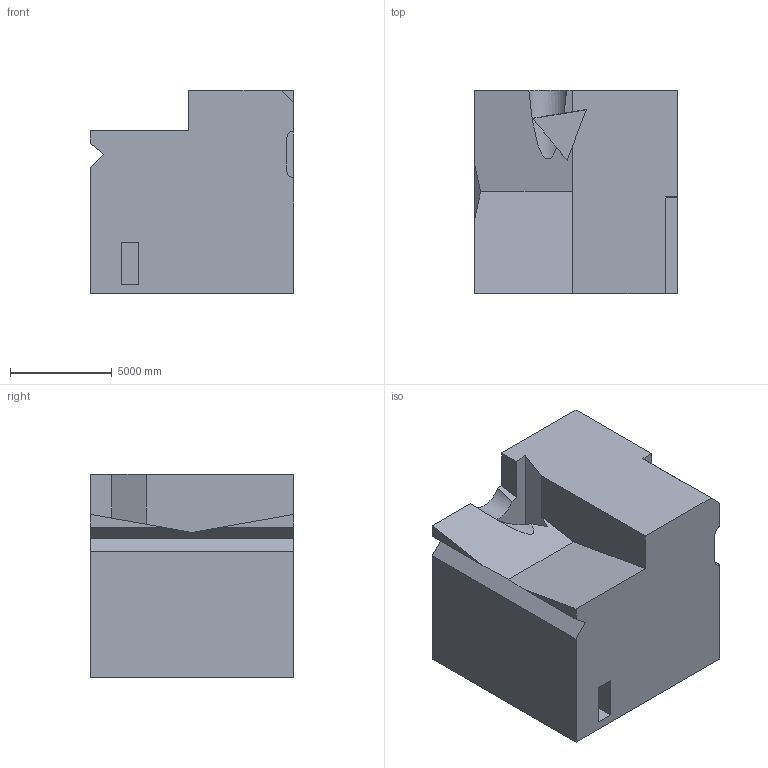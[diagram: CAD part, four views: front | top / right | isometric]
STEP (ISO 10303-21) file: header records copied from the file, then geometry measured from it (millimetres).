
FILE_DESCRIPTION (( 'STEP AP203' ), '1' );
FILE_NAME ('63.STEP', '2022-08-30T14:17:37', ( 'user' ), ( '' ), 'SwSTEP 2.0', 'SolidWorks 2021', '' );
FILE_SCHEMA (( 'CONFIG_CONTROL_DESIGN' ));
Length unit declared in the file: centimetre
Products named in the file (1): 63
Bounding box: 10000 x 10000 x 10000 mm (x, y, z)
Volume: 844751740605 mm3; surface area: 669727701.9 mm2
Topology: 1 solids, 1 shells, 31 faces, 84 edges, 56 vertices
Faces by surface type: plane 28, cylinder 3
Entity records: 1040 total; most frequent: CARTESIAN_POINT 184, ORIENTED_EDGE 168, DIRECTION 149, EDGE_CURVE 84, LINE 75, VECTOR 75, VERTEX_POINT 56, AXIS2_PLACEMENT_3D 37
